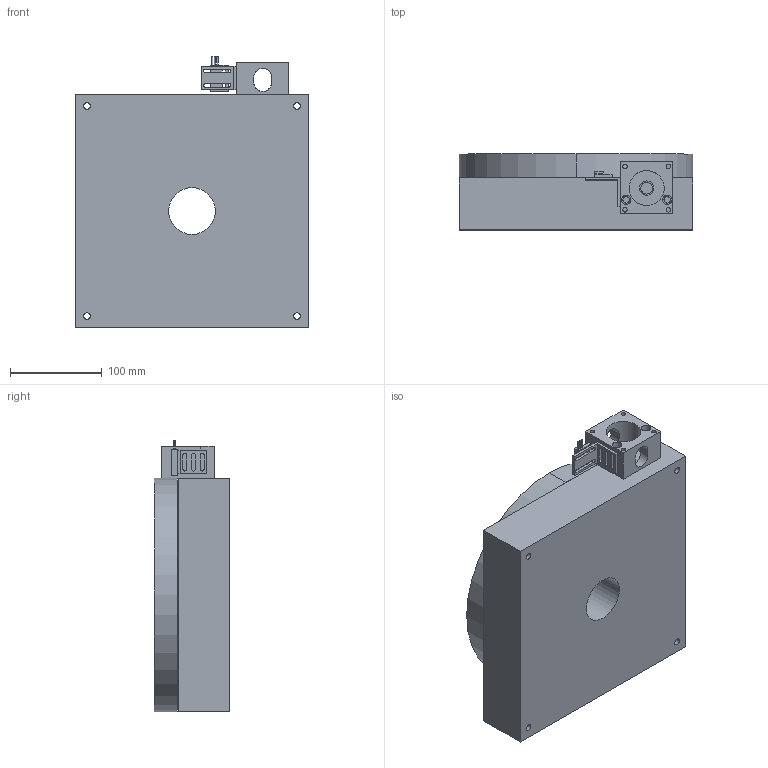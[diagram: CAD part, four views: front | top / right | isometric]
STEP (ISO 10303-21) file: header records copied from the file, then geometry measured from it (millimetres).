
FILE_DESCRIPTION((''),'2;1');
FILE_NAME('E210-ROTARY-T3_ASM','2005-02-18T',('BF20108'),(''),'PRO/ENGINEER BY PARAMETRIC TECHNOLOGY CORPORATION, 2004400','PRO/ENGINEER BY PARAMETRIC TECHNOLOGY CORPORATION, 2004400','');
FILE_SCHEMA(('CONFIG_CONTROL_DESIGN'));
Length unit declared in the file: inch
Products named in the file (7): E10RO-BASE; E10RO-TOP-T3; E-0176-01; 000-4457-SW-BRKT; 003-1145-SWITCH; ROTARY-TBL-HOME-SW_ASM; E210-ROTARY-T3_ASM
Assembly tree (6 placements, depth 3):
  E210-ROTARY-T3_ASM
    E10RO-BASE
    E10RO-TOP-T3
    E-0176-01
    ROTARY-TBL-HOME-SW_ASM
      000-4457-SW-BRKT
      003-1145-SWITCH
Bounding box: 254 x 82.55 x 295.49 mm (x, y, z)
Volume: 4806639.1 mm3; surface area: 354253.4 mm2
Topology: 5 solids, 13 shells, 159 faces, 418 edges, 278 vertices
Faces by surface type: cylinder 100, plane 59
Entity records: 5374 total; most frequent: DIRECTION 962, CARTESIAN_POINT 948, ORIENTED_EDGE 804, EDGE_CURVE 418, AXIS2_PLACEMENT_3D 374, VERTEX_POINT 278, EDGE_LOOP 228, VECTOR 214
